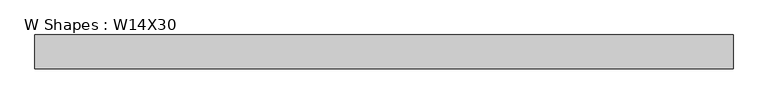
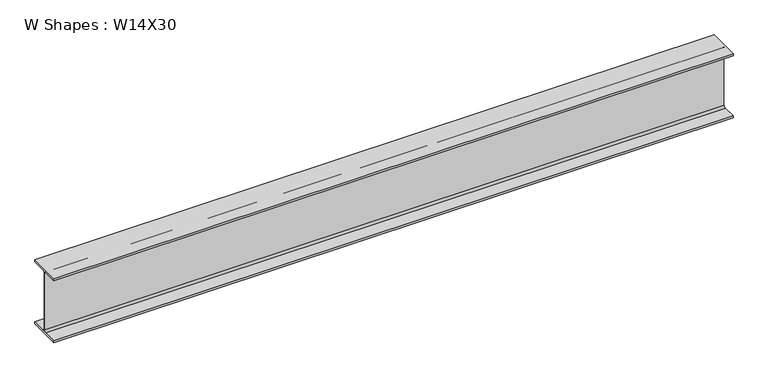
"""IFC4 building model written with IfcOpenShell, lengths in millimetres: beam geometry, W Shapes : W14X30."""

import ifcopenshell
import ifcopenshell.guid

model = None  # the IFC model being written
_history = None  # IfcOwnerHistory: only IFC2X3 demands one
_inside = {}  # id of a spatial element -> (the spatial element, [elements in it])
_under = {}  # id of a project, library or spatial element -> (it, [spatial elements below it])
_declared = {}  # id of a project -> (the project, [libraries it declares])
_typed = {}  # id of a type object -> (the type object, [elements of that type])
_made_of = {}  # id of a material, layer set ... -> (it, [elements and type objects made of it])


def new_model(schema):
    """Start an empty IFC model of exactly this schema.

    Asked for "IFC4X3", IfcOpenShell would pick the latest addendum, in which some entities
    have other attributes; the version numbers below select the first issue.
    IFC2X3 requires an IfcOwnerHistory on every rooted entity: one is made here for all.
    """
    global model, _history
    if schema == "IFC4X3":
        model = ifcopenshell.file(schema_version=(4, 3, 0, 0))
    else:
        model = ifcopenshell.file(schema=schema)
    _inside.clear()
    _under.clear()
    _declared.clear()
    _typed.clear()
    _made_of.clear()
    _history = None
    if model.schema == "IFC2X3":
        org = make("IfcOrganization", Name="unknown")
        user = make(
            "IfcPersonAndOrganization",
            ThePerson=make("IfcPerson", FamilyName="unknown"),
            TheOrganization=org,
        )
        app = make(
            "IfcApplication",
            ApplicationDeveloper=org,
            Version="unknown",
            ApplicationFullName="unknown",
            ApplicationIdentifier="unknown",
        )
        _history = make(
            "IfcOwnerHistory",
            OwningUser=user,
            OwningApplication=app,
            ChangeAction="ADDED",
            CreationDate=0,
        )
    return model


def make(cls, **values):
    """One entity of the class cls with the attributes given. An attribute that is None is left unset."""
    return model.create_entity(
        cls, **{name: value for name, value in values.items() if value is not None}
    )


def rooted(cls, **values):
    """An entity with a GlobalId (a new one), such as an element, a storey or a relation."""
    return make(cls, GlobalId=ifcopenshell.guid.new(), OwnerHistory=_history, **values)


def si_unit(unit_type, name, prefix=None):
    """IfcSIUnit, for example si_unit("LENGTHUNIT", "METRE", prefix="MILLI")."""
    return make("IfcSIUnit", UnitType=unit_type, Prefix=prefix, Name=name)


def assignment(units):
    """IfcUnitAssignment: the units of a project."""
    return None if units is None else make("IfcUnitAssignment", Units=units)


def point(xyz):
    """IfcCartesianPoint."""
    return None if xyz is None else make("IfcCartesianPoint", Coordinates=xyz)


def direction(xyz):
    """IfcDirection."""
    return None if xyz is None else make("IfcDirection", DirectionRatios=xyz)


def frame(location, z_axis=None, x_axis=None):
    """IfcAxis2Placement3D, a coordinate frame: its origin and axes. An axis left out is left unset."""
    return make(
        "IfcAxis2Placement3D",
        Location=point(location),
        Axis=direction(z_axis),
        RefDirection=direction(x_axis),
    )


def frame_2d(location, x_axis=None):
    """IfcAxis2Placement2D, a coordinate frame in the plane: its origin and x axis."""
    return make(
        "IfcAxis2Placement2D", Location=point(location), RefDirection=direction(x_axis)
    )


def origin():
    """The frame at (0, 0, 0) with its axes left unset."""
    return frame((0.0, 0.0, 0.0))


def place(relative_to, where):
    """IfcLocalPlacement: puts the frame where relative to a parent placement (None: the world)."""
    return make(
        "IfcLocalPlacement", PlacementRelTo=relative_to, RelativePlacement=where
    )


def context(
    kind, dimensions, precision=None, world=None, true_north=None, identifier=None
):
    """IfcGeometricRepresentationContext, for example the 3D "Model" context."""
    return make(
        "IfcGeometricRepresentationContext",
        ContextIdentifier=identifier,
        ContextType=kind,
        CoordinateSpaceDimension=dimensions,
        Precision=precision,
        WorldCoordinateSystem=world,
        TrueNorth=true_north,
    )


def project(units=None, contexts=None):
    """IfcProject with its units and contexts."""
    return rooted(
        "IfcProject",
        Name="project",
        RepresentationContexts=contexts,
        UnitsInContext=assignment(units),
    )


def spatial(cls, under=None, at=None, **own):
    """A site, building, storey or space (cls), placed at a placement, below another one or the project."""
    s = rooted(cls, ObjectPlacement=at, **own)
    if under is not None:
        _under.setdefault(under.id(), (under, []))[1].append(s)
    return s


def polyline(points):
    """IfcPolyline through the points."""
    return make("IfcPolyline", Points=[point(p) for p in points])


def circle_curve(where, radius):
    """IfcCircle in the frame where."""
    return make("IfcCircle", Position=where, Radius=radius)


def trimmed(basis, trim1, trim2, sense, master):
    """IfcTrimmedCurve: the piece of a basis curve between two trims."""
    return make(
        "IfcTrimmedCurve",
        BasisCurve=basis,
        Trim1=trim1,
        Trim2=trim2,
        SenseAgreement=sense,
        MasterRepresentation=master,
    )


def segment(curve, same_sense, transition):
    """IfcCompositeCurveSegment."""
    return make(
        "IfcCompositeCurveSegment",
        Transition=transition,
        SameSense=same_sense,
        ParentCurve=curve,
    )


def composite_curve(segments, self_intersect=None):
    """IfcCompositeCurve: segments joined end to end."""
    return make("IfcCompositeCurve", Segments=segments, SelfIntersect=self_intersect)


def outline(outer, holes=None, kind="AREA"):
    """IfcArbitraryClosedProfileDef: a profile drawn as a closed curve; with holes, ...WithVoids."""
    if holes is None:
        return make("IfcArbitraryClosedProfileDef", ProfileType=kind, OuterCurve=outer)
    return make(
        "IfcArbitraryProfileDefWithVoids",
        ProfileType=kind,
        OuterCurve=outer,
        InnerCurves=holes,
    )


def extrude(swept, where, along, depth):
    """IfcExtrudedAreaSolid: the profile swept, set in the frame where, extruded along a direction by depth."""
    return make(
        "IfcExtrudedAreaSolid",
        SweptArea=swept,
        Position=where,
        ExtrudedDirection=direction(along),
        Depth=depth,
    )


def shape(context_of_items, identifier, shape_type, items):
    """IfcShapeRepresentation: the items that make up one representation, for example the "Body"."""
    return make(
        "IfcShapeRepresentation",
        ContextOfItems=context_of_items,
        RepresentationIdentifier=identifier,
        RepresentationType=shape_type,
        Items=items,
    )


def source(mapping_origin, context_of_items, identifier, shape_type, items):
    """IfcRepresentationMap: a shape defined once, which mapped items show again and again."""
    return make(
        "IfcRepresentationMap",
        MappingOrigin=mapping_origin,
        MappedRepresentation=shape(context_of_items, identifier, shape_type, items),
    )


def transform(
    local_origin,
    x_axis=None,
    y_axis=None,
    z_axis=None,
    scale=None,
    scale2=None,
    scale3=None,
    uniform=True,
):
    """IfcCartesianTransformationOperator3D, or its non-uniform kind. x_axis, y_axis, z_axis: its Axis1, 2, 3."""
    if uniform:
        return make(
            "IfcCartesianTransformationOperator3D",
            Axis1=direction(x_axis),
            Axis2=direction(y_axis),
            LocalOrigin=point(local_origin),
            Scale=scale,
            Axis3=direction(z_axis),
        )
    return make(
        "IfcCartesianTransformationOperator3DnonUniform",
        Axis1=direction(x_axis),
        Axis2=direction(y_axis),
        LocalOrigin=point(local_origin),
        Scale=scale,
        Axis3=direction(z_axis),
        Scale2=scale2,
        Scale3=scale3,
    )


def mapped(mapping_source, mapping_target):
    """IfcMappedItem: shows the shape of a source again, moved by a transform."""
    return make(
        "IfcMappedItem", MappingSource=mapping_source, MappingTarget=mapping_target
    )


def made_of(thing, what):
    """Note that an element or type object is made of a material, layer set ...; save() writes the relation."""
    if what is not None:
        _made_of.setdefault(what.id(), (what, []))[1].append(thing)
    return thing


def element(
    cls,
    number,
    at=None,
    inside=None,
    cuts=None,
    type_object=None,
    material=None,
    context=None,
    identifier="Body",
    shape_type=None,
    held_by="IfcProductDefinitionShape",
    body=None,
    shapes=None,
    **own,
):
    """One element of the class cls, such as IfcWall. Its Tag is "e" and its number.

    at: its placement. inside: the storey or other place that contains it. cuts: it is an
    opening in that element (IfcRelVoidsElement). A single representation is given by context,
    identifier, shape_type and body (its items); several are given by shapes. held_by: the class
    of the entity that holds the representations. save() writes the other relations.
    """
    e = rooted(cls, Tag="e%d" % number, ObjectPlacement=at, **own)
    if body is not None:
        shapes = [shape(context, identifier, shape_type, body)]
    if shapes is not None:
        e.Representation = make(held_by, Representations=shapes)
    if inside is not None:
        _inside.setdefault(inside.id(), (inside, []))[1].append(e)
    if cuts is not None:
        rooted(
            "IfcRelVoidsElement", RelatingBuildingElement=cuts, RelatedOpeningElement=e
        )
    if type_object is not None:
        _typed.setdefault(type_object.id(), (type_object, []))[1].append(e)
    return made_of(e, material)


def aggregate(whole, parts):
    """IfcRelAggregates: a whole, such as a stair, and the parts it consists of."""
    return rooted("IfcRelAggregates", RelatingObject=whole, RelatedObjects=parts)


def save(model, path):
    """Write the relations noted so far, then the file.

    IfcRelAggregates (storeys below a building ...), IfcRelContainedInSpatialStructure (elements
    in a storey), IfcRelDefinesByType, IfcRelAssociatesMaterial and IfcRelDeclares: one each for
    every whole, place, type object, material and project.
    """
    for whole, parts in _under.values():
        aggregate(whole, parts)
    for where, things in _inside.values():
        rooted(
            "IfcRelContainedInSpatialStructure",
            RelatedElements=things,
            RelatingStructure=where,
        )
    for kind, things in _typed.values():
        rooted("IfcRelDefinesByType", RelatedObjects=things, RelatingType=kind)
    for what, things in _made_of.values():
        rooted("IfcRelAssociatesMaterial", RelatedObjects=things, RelatingMaterial=what)
    for by, libraries in _declared.values():
        rooted("IfcRelDeclares", RelatingContext=by, RelatedDefinitions=libraries)
    model.write(path)


def w_shapes_w14x30_4e72aeae(model_context):
    return source(origin(), model_context, "Body", "SweptSolid", [
        extrude(outline(composite_curve([segment(polyline([(85.471, -165.481), (85.471, -175.26), (-85.471, -175.26), (-85.471, -165.481), (-13.589, -165.481)]), True, "CONTINUOUS"), segment(trimmed(circle_curve(frame_2d((-13.589, -155.321)), 10.16), [point((-13.589, -165.481))], [point((-3.429, -155.321))], True, "CARTESIAN"), True, "CONTINUOUS"), segment(polyline([(-3.429, -155.321), (-3.429, 155.321)]), True, "CONTINUOUS"), segment(trimmed(circle_curve(frame_2d((-13.589, 155.321)), 10.16), [point((-3.429, 155.321))], [point((-13.589, 165.481))], True, "CARTESIAN"), True, "CONTINUOUS"), segment(polyline([(-13.589, 165.481), (-85.471, 165.481), (-85.471, 175.26), (85.471, 175.26), (85.471, 165.481), (13.589, 165.481)]), True, "CONTINUOUS"), segment(trimmed(circle_curve(frame_2d((13.589, 155.321)), 10.16), [point((13.589, 165.481))], [point((3.429, 155.321))], True, "CARTESIAN"), True, "CONTINUOUS"), segment(polyline([(3.429, 155.321), (3.429, -155.321)]), True, "CONTINUOUS"), segment(trimmed(circle_curve(frame_2d((13.589, -155.321)), 10.16), [point((3.429, -155.321))], [point((13.589, -165.481))], True, "CARTESIAN"), True, "CONTINUOUS"), segment(polyline([(13.589, -165.481), (85.471, -165.481)]), True, "CONTINUOUS")], self_intersect=False)), frame((-1657.8365916, 0.0, 0.0), z_axis=(1.0, 0.0, 0.0), x_axis=(0.0, 1.0, 0.0)), (0.0, 0.0, 1.0), 3521.1389716),
    ])


if __name__ == "__main__":
    model = new_model("IFC4")
    model_context = context("Model", 3, world=origin())
    ifc_project = project(units=[si_unit("LENGTHUNIT", "METRE", prefix="MILLI")], contexts=[model_context])
    site = spatial("IfcSite", under=ifc_project)
    building = spatial("IfcBuilding", under=site)
    placement = place(None, origin())
    w_shapes_w14x30_shape = w_shapes_w14x30_4e72aeae(model_context)
    element("IfcBeam", 1, ObjectType="W Shapes : W14X30", at=placement, inside=building, context=model_context, shape_type="MappedRepresentation", body=[
        mapped(w_shapes_w14x30_shape, transform((0.0, 0.0, 0.0), x_axis=(1.0, 0.0, 0.0), y_axis=(0.0, 1.0, 0.0), z_axis=(0.0, 0.0, 1.0))),
    ])
    save(model, "model.ifc")
